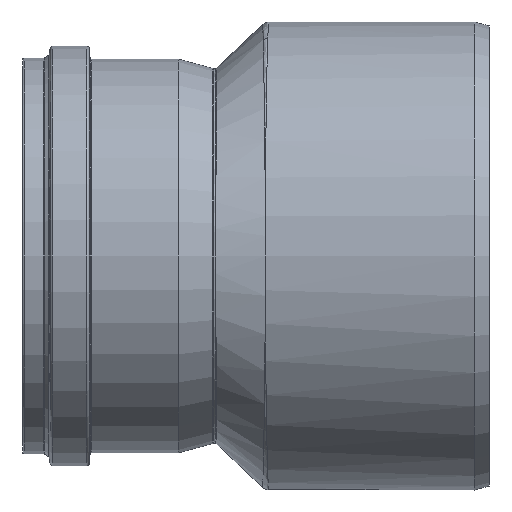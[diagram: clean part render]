
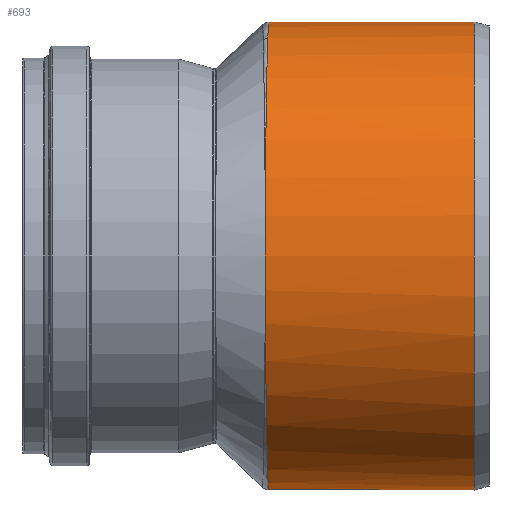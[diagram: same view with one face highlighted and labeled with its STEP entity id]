
A CAD part, left-side view. The second image highlights one B-rep face of the part: STEP entity #693.
In plain terms, the highlighted cylindrical face has radius 315 mm (diameter 630 mm), a full revolution.
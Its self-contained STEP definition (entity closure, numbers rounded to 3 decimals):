
#37=LINE('',#2441,#58);
#58=VECTOR('',#915,315.);
#78=CYLINDRICAL_SURFACE('',#768,315.);
#100=CIRCLE('',#769,315.);
#191=FACE_OUTER_BOUND('',#233,.T.);
#233=EDGE_LOOP('',(#508,#509,#510,#511));
#272=B_SPLINE_CURVE_WITH_KNOTS('',3,(#2188,#2189,#2190,#2191,#2192,#2193,
#2194,#2195,#2196,#2197,#2198,#2199,#2200,#2201,#2202,#2203,#2204,#2205,
#2206,#2207,#2208,#2209,#2210,#2211,#2212,#2213,#2214,#2215,#2216,#2217,
#2218,#2219,#2220,#2221,#2222,#2223,#2224,#2225,#2226,#2227,#2228,#2229,
#2230,#2231,#2232,#2233,#2234,#2235,#2236,#2237,#2238,#2239,#2240,#2241,
#2242,#2243,#2244,#2245,#2246,#2247,#2248,#2249,#2250,#2251,#2252,#2253,
#2254,#2255,#2256,#2257,#2258,#2259,#2260,#2261,#2262,#2263,#2264,#2265,
#2266,#2267,#2268,#2269,#2270,#2271,#2272,#2273,#2274,#2275,#2276,#2277,
#2278,#2279,#2280),.UNSPECIFIED.,.T.,.F.,(4,2,1,1,1,1,1,1,1,1,1,1,1,1,1,
1,1,1,1,1,1,1,1,1,1,1,1,1,1,1,1,1,1,1,1,1,1,1,1,1,1,1,1,1,1,1,1,1,1,1,1,
1,1,1,1,1,1,1,1,1,1,1,1,1,1,1,1,1,1,1,1,1,1,1,1,1,1,1,1,1,1,1,1,1,1,1,1,
2,4),(-3.142,-3.122,-3.044,-2.966,
-2.81,-2.732,-2.653,-2.575,
-2.497,-2.419,-2.341,-2.263,
-2.185,-2.107,-2.029,-1.873,
-1.804,-1.734,-1.596,-1.457,
-1.353,-1.249,-1.145,-1.093,
-1.041,-0.936,-0.832,-0.728,
-0.676,-0.624,-0.468,-0.39,
-0.312,-0.234,-0.156,-0.078,
0.,0.078,0.156,0.312,
0.41,0.468,0.585,0.625,
0.644,0.677,0.729,0.755,
0.794,0.833,0.937,1.041,1.044,
1.054,1.093,1.145,1.249,1.255,
1.275,1.353,1.457,1.509,1.561,
1.596,1.613,1.665,1.735,1.769,
1.821,1.873,1.878,1.893,1.912,
1.951,2.029,2.107,2.166,2.185,
2.342,2.498,2.517,2.576,2.654,
2.81,2.888,2.966,3.005,3.122,
3.142),.UNSPECIFIED.);
#284=VERTEX_POINT('',#2187);
#294=VERTEX_POINT('',#2440);
#360=EDGE_CURVE('',#284,#284,#272,.T.);
#375=EDGE_CURVE('',#284,#294,#37,.T.);
#376=EDGE_CURVE('',#294,#294,#100,.T.);
#508=ORIENTED_EDGE('',*,*,#360,.F.);
#509=ORIENTED_EDGE('',*,*,#375,.T.);
#510=ORIENTED_EDGE('',*,*,#376,.T.);
#511=ORIENTED_EDGE('',*,*,#375,.F.);
#693=ADVANCED_FACE('',(#191),#78,.T.);
#768=AXIS2_PLACEMENT_3D('',#2439,#913,#914);
#769=AXIS2_PLACEMENT_3D('',#2442,#916,#917);
#913=DIRECTION('center_axis',(0.,1.,0.));
#914=DIRECTION('ref_axis',(1.,0.,0.));
#915=DIRECTION('',(0.,-1.,0.));
#916=DIRECTION('center_axis',(0.,1.,0.));
#917=DIRECTION('ref_axis',(1.,0.,0.));
#2187=CARTESIAN_POINT('',(487.223,435.045,0.));
#2188=CARTESIAN_POINT('Ctrl Pts',(487.223,435.045,0.));
#2189=CARTESIAN_POINT('Ctrl Pts',(487.223,435.045,2.07));
#2190=CARTESIAN_POINT('Ctrl Pts',(487.244,435.045,4.141));
#2191=CARTESIAN_POINT('Ctrl Pts',(487.444,435.041,14.358));
#2192=CARTESIAN_POINT('Ctrl Pts',(488.405,435.024,30.69));
#2193=CARTESIAN_POINT('Ctrl Pts',(492.829,434.945,62.993));
#2194=CARTESIAN_POINT('Ctrl Pts',(501.065,434.797,94.895));
#2195=CARTESIAN_POINT('Ctrl Pts',(513.007,434.583,125.632));
#2196=CARTESIAN_POINT('Ctrl Pts',(523.73,434.392,147.878));
#2197=CARTESIAN_POINT('Ctrl Pts',(536.059,434.173,169.06));
#2198=CARTESIAN_POINT('Ctrl Pts',(550.005,433.926,189.243));
#2199=CARTESIAN_POINT('Ctrl Pts',(565.598,433.654,208.416));
#2200=CARTESIAN_POINT('Ctrl Pts',(582.642,433.361,226.303));
#2201=CARTESIAN_POINT('Ctrl Pts',(601.038,433.052,242.798));
#2202=CARTESIAN_POINT('Ctrl Pts',(620.51,432.732,257.692));
#2203=CARTESIAN_POINT('Ctrl Pts',(641.085,432.405,271.037));
#2204=CARTESIAN_POINT('Ctrl Pts',(670.021,431.962,286.75));
#2205=CARTESIAN_POINT('Ctrl Pts',(699.894,431.533,298.658));
#2206=CARTESIAN_POINT('Ctrl Pts',(729.728,431.136,306.801));
#2207=CARTESIAN_POINT('Ctrl Pts',(758.178,430.775,312.499));
#2208=CARTESIAN_POINT('Ctrl Pts',(794.693,430.345,315.939));
#2209=CARTESIAN_POINT('Ctrl Pts',(834.949,429.919,314.073));
#2210=CARTESIAN_POINT('Ctrl Pts',(870.701,429.574,308.046));
#2211=CARTESIAN_POINT('Ctrl Pts',(902.426,429.291,299.246));
#2212=CARTESIAN_POINT('Ctrl Pts',(927.945,429.079,289.186));
#2213=CARTESIAN_POINT('Ctrl Pts',(947.607,428.925,279.602));
#2214=CARTESIAN_POINT('Ctrl Pts',(966.633,428.78,269.075));
#2215=CARTESIAN_POINT('Ctrl Pts',(989.459,428.615,254.025));
#2216=CARTESIAN_POINT('Ctrl Pts',(1014.956,428.441,233.094));
#2217=CARTESIAN_POINT('Ctrl Pts',(1034.234,428.317,213.554));
#2218=CARTESIAN_POINT('Ctrl Pts',(1048.299,428.229,196.876));
#2219=CARTESIAN_POINT('Ctrl Pts',(1064.73,428.129,175.219));
#2220=CARTESIAN_POINT('Ctrl Pts',(1080.443,428.038,149.319));
#2221=CARTESIAN_POINT('Ctrl Pts',(1094.095,427.961,119.327));
#2222=CARTESIAN_POINT('Ctrl Pts',(1102.524,427.914,96.153));
#2223=CARTESIAN_POINT('Ctrl Pts',(1109.073,427.878,72.578));
#2224=CARTESIAN_POINT('Ctrl Pts',(1113.792,427.853,48.492));
#2225=CARTESIAN_POINT('Ctrl Pts',(1116.615,427.838,24.121));
#2226=CARTESIAN_POINT('Ctrl Pts',(1117.542,427.833,-0.332));
#2227=CARTESIAN_POINT('Ctrl Pts',(1116.557,427.838,-24.868));
#2228=CARTESIAN_POINT('Ctrl Pts',(1112.731,427.859,-57.257));
#2229=CARTESIAN_POINT('Ctrl Pts',(1104.612,427.902,-91.255));
#2230=CARTESIAN_POINT('Ctrl Pts',(1093.072,427.966,-121.798));
#2231=CARTESIAN_POINT('Ctrl Pts',(1080.911,428.035,-147.728));
#2232=CARTESIAN_POINT('Ctrl Pts',(1069.556,428.101,-167.261));
#2233=CARTESIAN_POINT('Ctrl Pts',(1059.097,428.164,-182.401));
#2234=CARTESIAN_POINT('Ctrl Pts',(1053.456,428.198,-190.077));
#2235=CARTESIAN_POINT('Ctrl Pts',(1046.797,428.238,-198.666));
#2236=CARTESIAN_POINT('Ctrl Pts',(1039.313,428.285,-207.522));
#2237=CARTESIAN_POINT('Ctrl Pts',(1031.018,428.338,-216.595));
#2238=CARTESIAN_POINT('Ctrl Pts',(1023.373,428.387,-224.429));
#2239=CARTESIAN_POINT('Ctrl Pts',(1009.467,428.478,-237.609));
#2240=CARTESIAN_POINT('Ctrl Pts',(989.312,428.616,-254.126));
#2241=CARTESIAN_POINT('Ctrl Pts',(970.862,428.749,-266.286));
#2242=CARTESIAN_POINT('Ctrl Pts',(960.277,428.829,-272.48));
#2243=CARTESIAN_POINT('Ctrl Pts',(955.551,428.864,-275.205));
#2244=CARTESIAN_POINT('Ctrl Pts',(946.252,428.935,-280.267));
#2245=CARTESIAN_POINT('Ctrl Pts',(927.787,429.081,-289.256));
#2246=CARTESIAN_POINT('Ctrl Pts',(911.82,429.213,-295.535));
#2247=CARTESIAN_POINT('Ctrl Pts',(898.836,429.325,-299.828));
#2248=CARTESIAN_POINT('Ctrl Pts',(888.399,429.416,-303.128));
#2249=CARTESIAN_POINT('Ctrl Pts',(867.988,429.601,-308.503));
#2250=CARTESIAN_POINT('Ctrl Pts',(843.787,429.834,-312.581));
#2251=CARTESIAN_POINT('Ctrl Pts',(821.932,430.058,-314.527));
#2252=CARTESIAN_POINT('Ctrl Pts',(807.321,430.214,-315.059));
#2253=CARTESIAN_POINT('Ctrl Pts',(796.351,430.335,-314.982));
#2254=CARTESIAN_POINT('Ctrl Pts',(785.402,430.458,-314.619));
#2255=CARTESIAN_POINT('Ctrl Pts',(770.83,430.626,-313.628));
#2256=CARTESIAN_POINT('Ctrl Pts',(754.615,430.822,-311.529));
#2257=CARTESIAN_POINT('Ctrl Pts',(738.569,431.024,-308.603));
#2258=CARTESIAN_POINT('Ctrl Pts',(724.354,431.207,-305.371));
#2259=CARTESIAN_POINT('Ctrl Pts',(713.317,431.355,-302.248));
#2260=CARTESIAN_POINT('Ctrl Pts',(706.124,431.454,-299.989));
#2261=CARTESIAN_POINT('Ctrl Pts',(702.212,431.507,-298.718));
#2262=CARTESIAN_POINT('Ctrl Pts',(694.915,431.609,-296.209));
#2263=CARTESIAN_POINT('Ctrl Pts',(681.432,431.8,-291.124));
#2264=CARTESIAN_POINT('Ctrl Pts',(662.631,432.076,-282.74));
#2265=CARTESIAN_POINT('Ctrl Pts',(642.816,432.379,-271.972));
#2266=CARTESIAN_POINT('Ctrl Pts',(629.057,432.597,-263.235));
#2267=CARTESIAN_POINT('Ctrl Pts',(608.85,432.921,-249.276));
#2268=CARTESIAN_POINT('Ctrl Pts',(581.827,433.372,-226.871));
#2269=CARTESIAN_POINT('Ctrl Pts',(558.664,433.775,-200.521));
#2270=CARTESIAN_POINT('Ctrl Pts',(544.168,434.029,-180.794));
#2271=CARTESIAN_POINT('Ctrl Pts',(535.016,434.191,-167.273));
#2272=CARTESIAN_POINT('Ctrl Pts',(519.511,434.467,-140.625));
#2273=CARTESIAN_POINT('Ctrl Pts',(506.355,434.702,-110.28));
#2274=CARTESIAN_POINT('Ctrl Pts',(496.918,434.871,-78.827));
#2275=CARTESIAN_POINT('Ctrl Pts',(492.593,434.949,-58.913));
#2276=CARTESIAN_POINT('Ctrl Pts',(488.791,435.017,-34.685));
#2277=CARTESIAN_POINT('Ctrl Pts',(487.521,435.04,-18.358));
#2278=CARTESIAN_POINT('Ctrl Pts',(487.243,435.045,-4.088));
#2279=CARTESIAN_POINT('Ctrl Pts',(487.223,435.045,-2.044));
#2280=CARTESIAN_POINT('Ctrl Pts',(487.223,435.045,0.));
#2439=CARTESIAN_POINT('Origin',(802.223,294.307,0.));
#2440=CARTESIAN_POINT('',(487.223,153.57,0.));
#2441=CARTESIAN_POINT('',(487.223,294.307,0.));
#2442=CARTESIAN_POINT('Origin',(802.223,153.57,0.));
